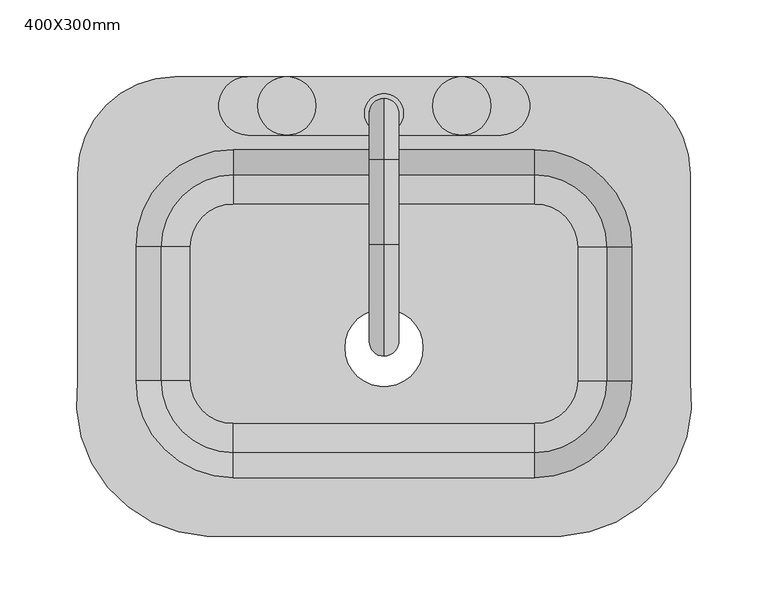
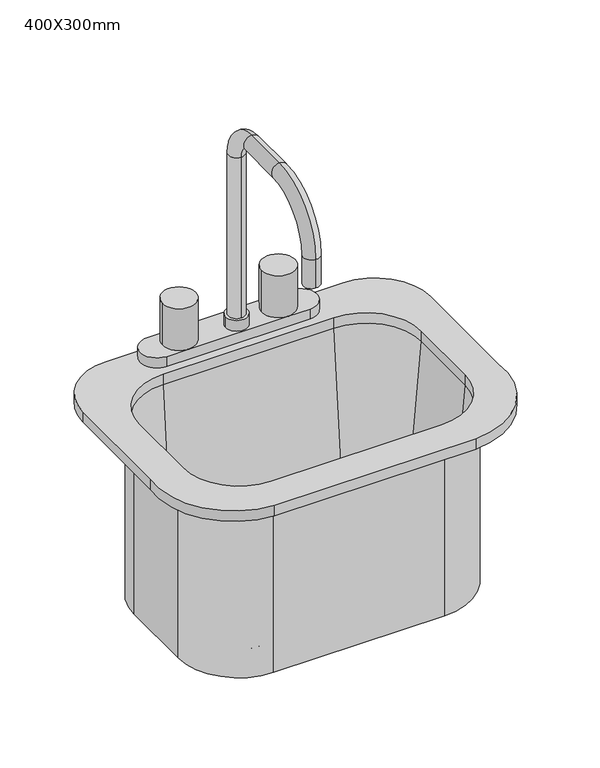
"""IFC4 building model written with IfcOpenShell, lengths in millimetres: flow terminal geometry, ARQ_VANITORIO : 400X300mm."""

import ifcopenshell
import ifcopenshell.guid

model = None  # the IFC model being written
_history = None  # IfcOwnerHistory: only IFC2X3 demands one
_inside = {}  # id of a spatial element -> (the spatial element, [elements in it])
_under = {}  # id of a project, library or spatial element -> (it, [spatial elements below it])
_declared = {}  # id of a project -> (the project, [libraries it declares])
_typed = {}  # id of a type object -> (the type object, [elements of that type])
_made_of = {}  # id of a material, layer set ... -> (it, [elements and type objects made of it])


def new_model(schema):
    """Start an empty IFC model of exactly this schema.

    Asked for "IFC4X3", IfcOpenShell would pick the latest addendum, in which some entities
    have other attributes; the version numbers below select the first issue.
    IFC2X3 requires an IfcOwnerHistory on every rooted entity: one is made here for all.
    """
    global model, _history
    if schema == "IFC4X3":
        model = ifcopenshell.file(schema_version=(4, 3, 0, 0))
    else:
        model = ifcopenshell.file(schema=schema)
    _inside.clear()
    _under.clear()
    _declared.clear()
    _typed.clear()
    _made_of.clear()
    _history = None
    if model.schema == "IFC2X3":
        org = make("IfcOrganization", Name="unknown")
        user = make(
            "IfcPersonAndOrganization",
            ThePerson=make("IfcPerson", FamilyName="unknown"),
            TheOrganization=org,
        )
        app = make(
            "IfcApplication",
            ApplicationDeveloper=org,
            Version="unknown",
            ApplicationFullName="unknown",
            ApplicationIdentifier="unknown",
        )
        _history = make(
            "IfcOwnerHistory",
            OwningUser=user,
            OwningApplication=app,
            ChangeAction="ADDED",
            CreationDate=0,
        )
    return model


def make(cls, **values):
    """One entity of the class cls with the attributes given. An attribute that is None is left unset."""
    return model.create_entity(
        cls, **{name: value for name, value in values.items() if value is not None}
    )


def rooted(cls, **values):
    """An entity with a GlobalId (a new one), such as an element, a storey or a relation."""
    return make(cls, GlobalId=ifcopenshell.guid.new(), OwnerHistory=_history, **values)


def si_unit(unit_type, name, prefix=None):
    """IfcSIUnit, for example si_unit("LENGTHUNIT", "METRE", prefix="MILLI")."""
    return make("IfcSIUnit", UnitType=unit_type, Prefix=prefix, Name=name)


def assignment(units):
    """IfcUnitAssignment: the units of a project."""
    return None if units is None else make("IfcUnitAssignment", Units=units)


def point(xyz):
    """IfcCartesianPoint."""
    return None if xyz is None else make("IfcCartesianPoint", Coordinates=xyz)


def direction(xyz):
    """IfcDirection."""
    return None if xyz is None else make("IfcDirection", DirectionRatios=xyz)


def frame(location, z_axis=None, x_axis=None):
    """IfcAxis2Placement3D, a coordinate frame: its origin and axes. An axis left out is left unset."""
    return make(
        "IfcAxis2Placement3D",
        Location=point(location),
        Axis=direction(z_axis),
        RefDirection=direction(x_axis),
    )


def origin():
    """The frame at (0, 0, 0) with its axes left unset."""
    return frame((0.0, 0.0, 0.0))


def place(relative_to, where):
    """IfcLocalPlacement: puts the frame where relative to a parent placement (None: the world)."""
    return make(
        "IfcLocalPlacement", PlacementRelTo=relative_to, RelativePlacement=where
    )


def context(
    kind, dimensions, precision=None, world=None, true_north=None, identifier=None
):
    """IfcGeometricRepresentationContext, for example the 3D "Model" context."""
    return make(
        "IfcGeometricRepresentationContext",
        ContextIdentifier=identifier,
        ContextType=kind,
        CoordinateSpaceDimension=dimensions,
        Precision=precision,
        WorldCoordinateSystem=world,
        TrueNorth=true_north,
    )


def project(units=None, contexts=None):
    """IfcProject with its units and contexts."""
    return rooted(
        "IfcProject",
        Name="project",
        RepresentationContexts=contexts,
        UnitsInContext=assignment(units),
    )


def spatial(cls, under=None, at=None, **own):
    """A site, building, storey or space (cls), placed at a placement, below another one or the project."""
    s = rooted(cls, ObjectPlacement=at, **own)
    if under is not None:
        _under.setdefault(under.id(), (under, []))[1].append(s)
    return s


def polyline(points):
    """IfcPolyline through the points."""
    return make("IfcPolyline", Points=[point(p) for p in points])


def circle_curve(where, radius):
    """IfcCircle in the frame where."""
    return make("IfcCircle", Position=where, Radius=radius)


def ellipse_curve(where, semi_axis1, semi_axis2):
    """IfcEllipse in the frame where."""
    return make(
        "IfcEllipse", Position=where, SemiAxis1=semi_axis1, SemiAxis2=semi_axis2
    )


def trimmed(basis, trim1, trim2, sense, master):
    """IfcTrimmedCurve: the piece of a basis curve between two trims."""
    return make(
        "IfcTrimmedCurve",
        BasisCurve=basis,
        Trim1=trim1,
        Trim2=trim2,
        SenseAgreement=sense,
        MasterRepresentation=master,
    )


def shape(context_of_items, identifier, shape_type, items):
    """IfcShapeRepresentation: the items that make up one representation, for example the "Body"."""
    return make(
        "IfcShapeRepresentation",
        ContextOfItems=context_of_items,
        RepresentationIdentifier=identifier,
        RepresentationType=shape_type,
        Items=items,
    )


def source(mapping_origin, context_of_items, identifier, shape_type, items):
    """IfcRepresentationMap: a shape defined once, which mapped items show again and again."""
    return make(
        "IfcRepresentationMap",
        MappingOrigin=mapping_origin,
        MappedRepresentation=shape(context_of_items, identifier, shape_type, items),
    )


def transform(
    local_origin,
    x_axis=None,
    y_axis=None,
    z_axis=None,
    scale=None,
    scale2=None,
    scale3=None,
    uniform=True,
):
    """IfcCartesianTransformationOperator3D, or its non-uniform kind. x_axis, y_axis, z_axis: its Axis1, 2, 3."""
    if uniform:
        return make(
            "IfcCartesianTransformationOperator3D",
            Axis1=direction(x_axis),
            Axis2=direction(y_axis),
            LocalOrigin=point(local_origin),
            Scale=scale,
            Axis3=direction(z_axis),
        )
    return make(
        "IfcCartesianTransformationOperator3DnonUniform",
        Axis1=direction(x_axis),
        Axis2=direction(y_axis),
        LocalOrigin=point(local_origin),
        Scale=scale,
        Axis3=direction(z_axis),
        Scale2=scale2,
        Scale3=scale3,
    )


def mapped(mapping_source, mapping_target):
    """IfcMappedItem: shows the shape of a source again, moved by a transform."""
    return make(
        "IfcMappedItem", MappingSource=mapping_source, MappingTarget=mapping_target
    )


def made_of(thing, what):
    """Note that an element or type object is made of a material, layer set ...; save() writes the relation."""
    if what is not None:
        _made_of.setdefault(what.id(), (what, []))[1].append(thing)
    return thing


def element(
    cls,
    number,
    at=None,
    inside=None,
    cuts=None,
    type_object=None,
    material=None,
    context=None,
    identifier="Body",
    shape_type=None,
    held_by="IfcProductDefinitionShape",
    body=None,
    shapes=None,
    **own,
):
    """One element of the class cls, such as IfcWall. Its Tag is "e" and its number.

    at: its placement. inside: the storey or other place that contains it. cuts: it is an
    opening in that element (IfcRelVoidsElement). A single representation is given by context,
    identifier, shape_type and body (its items); several are given by shapes. held_by: the class
    of the entity that holds the representations. save() writes the other relations.
    """
    e = rooted(cls, Tag="e%d" % number, ObjectPlacement=at, **own)
    if body is not None:
        shapes = [shape(context, identifier, shape_type, body)]
    if shapes is not None:
        e.Representation = make(held_by, Representations=shapes)
    if inside is not None:
        _inside.setdefault(inside.id(), (inside, []))[1].append(e)
    if cuts is not None:
        rooted(
            "IfcRelVoidsElement", RelatingBuildingElement=cuts, RelatedOpeningElement=e
        )
    if type_object is not None:
        _typed.setdefault(type_object.id(), (type_object, []))[1].append(e)
    return made_of(e, material)


def aggregate(whole, parts):
    """IfcRelAggregates: a whole, such as a stair, and the parts it consists of."""
    return rooted("IfcRelAggregates", RelatingObject=whole, RelatedObjects=parts)


def save(model, path):
    """Write the relations noted so far, then the file.

    IfcRelAggregates (storeys below a building ...), IfcRelContainedInSpatialStructure (elements
    in a storey), IfcRelDefinesByType, IfcRelAssociatesMaterial and IfcRelDeclares: one each for
    every whole, place, type object, material and project.
    """
    for whole, parts in _under.values():
        aggregate(whole, parts)
    for where, things in _inside.values():
        rooted(
            "IfcRelContainedInSpatialStructure",
            RelatedElements=things,
            RelatingStructure=where,
        )
    for kind, things in _typed.values():
        rooted("IfcRelDefinesByType", RelatedObjects=things, RelatingType=kind)
    for what, things in _made_of.values():
        rooted("IfcRelAssociatesMaterial", RelatedObjects=things, RelatingMaterial=what)
    for by, libraries in _declared.values():
        rooted("IfcRelDeclares", RelatingContext=by, RelatedDefinitions=libraries)
    model.write(path)


def plane_surface(at):
    """IfcPlane: the flat surface through the origin of the frame at, square to its z axis."""
    return make("IfcPlane", Position=at)


def cylinder_surface(at, radius):
    """IfcCylindricalSurface: all points at the distance radius from the z axis of the frame at."""
    return make("IfcCylindricalSurface", Position=at, Radius=radius)


def revolved_surface(curve, axis_point, axis_direction):
    """IfcSurfaceOfRevolution: the curve turned about the line through axis_point along axis_direction."""
    return make(
        "IfcSurfaceOfRevolution",
        SweptCurve=make("IfcArbitraryOpenProfileDef", ProfileType="CURVE", Curve=curve),
        AxisPosition=make("IfcAxis1Placement", Location=point(axis_point), Axis=direction(axis_direction)),
    )


def advanced_brep(points, edges, surfaces, faces):
    """IfcAdvancedBrep: a solid bounded by faces that lie on surfaces and meet in shared edges.

    An edge is (start, end): straight between two places in points (the first is 0);
    or (start, end, curve); or (start, end, curve, False) where it runs against its curve.
    A face is (place in surfaces, loops), or (place, loops, False) where it looks against
    its surface's normal. A loop lists edges by number (the first is 1), with a minus sign
    where the edge is run from its end to its start. The first loop is the outer one.
    """
    corners = [point(p) for p in points]
    vertices = [make("IfcVertexPoint", VertexGeometry=c) for c in corners]
    made = []
    for start, end, *more in edges:
        made.append(
            make(
                "IfcEdgeCurve",
                EdgeStart=vertices[start],
                EdgeEnd=vertices[end],
                EdgeGeometry=more[0] if more else make("IfcPolyline", Points=[corners[start], corners[end]]),
                SameSense=more[1] if len(more) > 1 else True,
            )
        )
    hull = []
    for where, loops, *sense in faces:
        bounds = []
        for j, loop in enumerate(loops):
            ring = [make("IfcOrientedEdge", EdgeElement=made[abs(k) - 1], Orientation=k > 0) for k in loop]
            bounds.append(
                make(
                    "IfcFaceOuterBound" if j == 0 else "IfcFaceBound",
                    Bound=make("IfcEdgeLoop", EdgeList=ring),
                    Orientation=True,
                )
            )
        hull.append(make("IfcAdvancedFace", Bounds=bounds, FaceSurface=surfaces[where], SameSense=sense[0] if sense else True))
    return make("IfcAdvancedBrep", Outer=make("IfcClosedShell", CfsFaces=hull))


def flow_terminal_400x300mm_7964804b(model_context):
    return source(origin(), model_context, "Body", "AdvancedBrep", [
        advanced_brep(
        [(183.9392406, 69.0204011, 684.1), (114.0892406, 138.8704011, 684.1), (114.0892406, 138.8704011, 900.0), (183.9392406, 69.0204011, 900.0), (183.9392406, -18.2545989, 684.1), (114.0892406, -88.1045989, 684.1), (-82.7107594, -88.1045989, 684.1), (-152.5607594, -18.2545989, 684.1), (-152.5607594, 69.0204011, 684.1), (-82.7107594, 138.8704011, 684.1), (-9.7107594, 3.175, 684.1), (41.0892406, 3.175, 684.1), (142.0776588, 69.0204011, 693.625), (114.0892406, 97.0088193, 693.625), (-82.7107594, 97.0088193, 693.625), (-110.6991776, 69.0204011, 693.625), (-110.6991776, -18.2545989, 693.625), (-82.7107594, -46.2430171, 693.625), (114.0892406, -46.2430171, 693.625), (142.0776588, -18.2545989, 693.625), (-9.7107594, 3.175, 693.625), (41.0892406, 3.175, 693.625), (161.0551678, 69.0204011, 711.0146831), (114.0892406, 115.9863283, 711.0146831), (177.5892406, 69.0204011, 900.0), (114.0892406, 132.5204011, 900.0), (183.9392406, -18.2545989, 900.0), (161.0551678, -18.2545989, 711.0146831), (177.5892406, -18.2545989, 900.0), (114.0892406, -88.1045989, 900.0), (114.0892406, -65.2205261, 711.0146831), (114.0892406, -81.7545989, 900.0), (-82.7107594, -88.1045989, 900.0), (-82.7107594, -65.2205261, 711.0146831), (-82.7107594, -81.7545989, 900.0), (-152.5607594, -18.2545989, 900.0), (-129.6766866, -18.2545989, 711.0146831), (-146.2107594, -18.2545989, 900.0), (-152.5607594, 69.0204011, 900.0), (-129.6766866, 69.0204011, 711.0146831), (-146.2107594, 69.0204011, 900.0), (-82.7107594, 138.8704011, 900.0), (-82.7107594, 115.9863283, 711.0146831), (-82.7107594, 132.5204011, 900.0), (-99.9606923, -119.8545989, 912.7), (131.3391735, -119.8545989, 912.7), (215.6892406, -18.2545989, 912.7), (215.6892406, 116.6454011, 912.7), (152.1892406, 180.1454011, 912.7), (-120.8107593, 180.1454011, 912.7), (-184.3107593, 116.6454011, 912.7), (-184.3107593, -18.2545982, 912.7), (114.0892406, 132.5204011, 912.7), (177.5892406, 69.0204011, 912.7), (177.5892406, -18.2545989, 912.7), (114.0892406, -81.7545989, 912.7), (-82.7107594, -81.7545989, 912.7), (-146.2107594, -18.2545989, 912.7), (-146.2107594, 69.0204011, 912.7), (-82.7107594, 132.5204011, 912.7), (-99.9606923, -119.8545989, 900.0), (-184.3107593, -18.2545982, 900.0), (-184.3107593, 116.6454011, 900.0), (-120.8107593, 180.1454011, 900.0), (152.1892406, 180.1454011, 900.0), (215.6892406, 116.6454011, 900.0), (215.6892406, -18.2545989, 900.0), (131.3391735, -119.8545989, 900.0)],
        [
            (0, 1, circle_curve(frame((114.0892406, 69.0204011, 684.1), z_axis=(0.0, 0.0, 1.0), x_axis=(0.0, 1.0, 0.0)), 69.85)),
            (1, 2),
            (2, 3, circle_curve(frame((114.0892406, 69.0204011, 900.0), z_axis=(0.0, 0.0, -1.0), x_axis=(0.0, 1.0, 0.0)), 69.85)),
            (3, 0),
            (0, 4),
            (4, 5, circle_curve(frame((114.0892406, -18.2545989, 684.1), z_axis=(0.0, 0.0, -1.0), x_axis=(1.0, 0.0, 0.0)), 69.85)),
            (5, 6),
            (6, 7, circle_curve(frame((-82.7107594, -18.2545989, 684.1), z_axis=(0.0, 0.0, -1.0), x_axis=(0.0, -1.0, 0.0)), 69.85)),
            (7, 8),
            (8, 9, circle_curve(frame((-82.7107594, 69.0204011, 684.1), z_axis=(0.0, 0.0, -1.0), x_axis=(-1.0, 0.0, 0.0)), 69.85)),
            (9, 1),
            (10, 11, circle_curve(frame((15.6892406, 3.175, 684.1), z_axis=(0.0, 0.0, 1.0), x_axis=(1.0, 0.0, 0.0)), 25.4)),
            (11, 10, circle_curve(frame((15.6892406, 3.175, 684.1), z_axis=(0.0, 0.0, 1.0), x_axis=(1.0, 0.0, 0.0)), 25.4)),
            (12, 13, circle_curve(frame((114.0892406, 69.0204011, 693.625), z_axis=(0.0, 0.0, 1.0), x_axis=(0.0, 1.0, 0.0)), 27.9884182)),
            (13, 14),
            (14, 15, circle_curve(frame((-82.7107594, 69.0204011, 693.625), z_axis=(0.0, 0.0, 1.0), x_axis=(-1.0, 0.0, 0.0)), 27.9884182)),
            (15, 16),
            (16, 17, circle_curve(frame((-82.7107594, -18.2545989, 693.625), z_axis=(0.0, 0.0, 1.0), x_axis=(0.0, -1.0, 0.0)), 27.9884182)),
            (17, 18),
            (18, 19, circle_curve(frame((114.0892406, -18.2545989, 693.625), z_axis=(0.0, 0.0, 1.0), x_axis=(1.0, 0.0, 0.0)), 27.9884182)),
            (19, 12),
            (20, 21, circle_curve(frame((15.6892406, 3.175, 693.625), z_axis=(0.0, 0.0, -1.0), x_axis=(1.0, 0.0, 0.0)), 25.4)),
            (21, 20, circle_curve(frame((15.6892406, 3.175, 693.625), z_axis=(0.0, 0.0, -1.0), x_axis=(1.0, 0.0, 0.0)), 25.4)),
            (12, 22, circle_curve(frame((142.0776588, 69.0204011, 712.675), z_axis=(0.0, -1.0, 0.0), x_axis=(1.0, 0.0, 0.0)), 19.05)),
            (22, 23, circle_curve(frame((114.0892406, 69.0204011, 711.0146831), z_axis=(0.0, 0.0, 1.0), x_axis=(0.0, 1.0, 0.0)), 46.9659272)),
            (23, 13, circle_curve(frame((114.0892406, 97.0088193, 712.675), z_axis=(-1.0, 0.0, 0.0), x_axis=(0.0, 1.0, 0.0)), 19.05)),
            (22, 24),
            (24, 25, circle_curve(frame((114.0892406, 69.0204011, 900.0), z_axis=(0.0, 0.0, 1.0), x_axis=(0.0, 1.0, 0.0)), 63.5)),
            (25, 23),
            (3, 26),
            (26, 4),
            (19, 27, circle_curve(frame((142.0776588, -18.2545989, 712.675), z_axis=(0.0, -1.0, 0.0), x_axis=(1.0, 0.0, 0.0)), 19.05)),
            (27, 22),
            (27, 28),
            (28, 24),
            (26, 29, circle_curve(frame((114.0892406, -18.2545989, 900.0), z_axis=(0.0, 0.0, -1.0), x_axis=(1.0, 0.0, 0.0)), 69.85)),
            (29, 5),
            (18, 30, circle_curve(frame((114.0892406, -46.2430171, 712.675), z_axis=(-1.0, 0.0, 0.0), x_axis=(0.0, -1.0, 0.0)), 19.05)),
            (30, 27, circle_curve(frame((114.0892406, -18.2545989, 711.0146831), z_axis=(0.0, 0.0, 1.0), x_axis=(1.0, 0.0, 0.0)), 46.9659272)),
            (30, 31),
            (31, 28, circle_curve(frame((114.0892406, -18.2545989, 900.0), z_axis=(0.0, 0.0, 1.0), x_axis=(1.0, 0.0, 0.0)), 63.5)),
            (29, 32),
            (32, 6),
            (17, 33, circle_curve(frame((-82.7107594, -46.2430171, 712.675), z_axis=(-1.0, 0.0, 0.0), x_axis=(0.0, -1.0, 0.0)), 19.05)),
            (33, 30),
            (33, 34),
            (34, 31),
            (32, 35, circle_curve(frame((-82.7107594, -18.2545989, 900.0), z_axis=(0.0, 0.0, -1.0), x_axis=(0.0, -1.0, 0.0)), 69.85)),
            (35, 7),
            (16, 36, circle_curve(frame((-110.6991776, -18.2545989, 712.675), z_axis=(0.0, 1.0, 0.0), x_axis=(-1.0, 0.0, 0.0)), 19.05)),
            (36, 33, circle_curve(frame((-82.7107594, -18.2545989, 711.0146831), z_axis=(0.0, 0.0, 1.0), x_axis=(0.0, -1.0, 0.0)), 46.9659272)),
            (36, 37),
            (37, 34, circle_curve(frame((-82.7107594, -18.2545989, 900.0), z_axis=(0.0, 0.0, 1.0), x_axis=(0.0, -1.0, 0.0)), 63.5)),
            (35, 38),
            (38, 8),
            (15, 39, circle_curve(frame((-110.6991776, 69.0204011, 712.675), z_axis=(0.0, 1.0, 0.0), x_axis=(-1.0, 0.0, 0.0)), 19.05)),
            (39, 36),
            (39, 40),
            (40, 37),
            (38, 41, circle_curve(frame((-82.7107594, 69.0204011, 900.0), z_axis=(0.0, 0.0, -1.0), x_axis=(-1.0, 0.0, 0.0)), 69.85)),
            (41, 9),
            (14, 42, circle_curve(frame((-82.7107594, 97.0088193, 712.675), z_axis=(1.0, 0.0, 0.0), x_axis=(0.0, 1.0, 0.0)), 19.05)),
            (42, 39, circle_curve(frame((-82.7107594, 69.0204011, 711.0146831), z_axis=(0.0, 0.0, 1.0), x_axis=(-1.0, 0.0, 0.0)), 46.9659272)),
            (42, 43),
            (43, 40, circle_curve(frame((-82.7107594, 69.0204011, 900.0), z_axis=(0.0, 0.0, 1.0), x_axis=(-1.0, 0.0, 0.0)), 63.5)),
            (41, 2),
            (23, 42),
            (25, 43),
            (20, 10),
            (11, 21),
            (44, 45),
            (45, 46, circle_curve(frame((127.5319557, -30.8793432, 912.7), z_axis=(0.0, 0.0, 1.0), x_axis=(1.0, 0.0, 0.0)), 89.0566732)),
            (46, 47),
            (47, 48, circle_curve(frame((152.1892406, 116.6454011, 912.7), z_axis=(0.0, 0.0, 1.0), x_axis=(1.0, 0.0, 0.0)), 63.5)),
            (48, 49),
            (49, 50, circle_curve(frame((-120.8107593, 116.6454011, 912.7), z_axis=(0.0, 0.0, 1.0), x_axis=(1.0, 0.0, 0.0)), 63.5)),
            (50, 51),
            (51, 44, circle_curve(frame((-96.1534746, -30.8793432, 912.7), z_axis=(0.0, 0.0, 1.0), x_axis=(1.0, 0.0, 0.0)), 89.0566732)),
            (52, 53, circle_curve(frame((114.0892406, 69.0204011, 912.7), z_axis=(0.0, 0.0, -1.0), x_axis=(1.0, 0.0, 0.0)), 63.5)),
            (53, 54),
            (54, 55, circle_curve(frame((114.0892406, -18.2545989, 912.7), z_axis=(0.0, 0.0, -1.0), x_axis=(1.0, 0.0, 0.0)), 63.5)),
            (55, 56),
            (56, 57, circle_curve(frame((-82.7107594, -18.2545989, 912.7), z_axis=(0.0, 0.0, -1.0), x_axis=(1.0, 0.0, 0.0)), 63.5)),
            (57, 58),
            (58, 59, circle_curve(frame((-82.7107594, 69.0204011, 912.7), z_axis=(0.0, 0.0, -1.0), x_axis=(1.0, 0.0, 0.0)), 63.5)),
            (59, 52),
            (60, 61, circle_curve(frame((-96.1534746, -30.8793432, 900.0), z_axis=(0.0, 0.0, -1.0), x_axis=(1.0, 0.0, 0.0)), 89.0566732)),
            (61, 62),
            (62, 63, circle_curve(frame((-120.8107593, 116.6454011, 900.0), z_axis=(0.0, 0.0, -1.0), x_axis=(1.0, 0.0, 0.0)), 63.5)),
            (63, 64),
            (64, 65, circle_curve(frame((152.1892406, 116.6454011, 900.0), z_axis=(0.0, 0.0, -1.0), x_axis=(1.0, 0.0, 0.0)), 63.5)),
            (65, 66),
            (66, 67, circle_curve(frame((127.5319557, -30.8793432, 900.0), z_axis=(0.0, 0.0, -1.0), x_axis=(1.0, 0.0, 0.0)), 89.0566732)),
            (67, 60),
            (44, 60),
            (67, 45),
            (66, 46),
            (65, 47),
            (64, 48),
            (63, 49),
            (62, 50),
            (61, 51),
            (52, 25),
            (24, 53),
            (28, 54),
            (31, 55),
            (34, 56),
            (37, 57),
            (40, 58),
            (43, 59),
        ],
        [
            cylinder_surface(frame((114.0892406, 69.0204011, 0.0), z_axis=(0.0, 0.0, -1.0), x_axis=(0.0, 1.0, 0.0)), 69.85),
            plane_surface(frame((114.0892406, 69.0204011, 684.1), z_axis=(0.0, 0.0, -1.0), x_axis=(0.0, 1.0, 0.0))),
            plane_surface(frame((114.0892406, 69.0204011, 693.625), z_axis=(0.0, 0.0, 1.0), x_axis=(0.0, 1.0, 0.0))),
            revolved_surface(trimmed(ellipse_curve(frame((114.0892406, 97.0088193, 712.675), z_axis=(1.0, 0.0, 0.0), x_axis=(0.0, 1.0, 0.0)), 19.05, 19.05), [point((114.0892406, 97.0088193, 693.625))], [point((114.0892406, 115.9863283, 711.0146831))], True, "CARTESIAN"), (114.0892406, 69.0204011, 0.0), (0.0, 0.0, -1.0)),
            revolved_surface(polyline([(114.0892406, 115.9863283, 711.0146831), (114.0892406, 132.5204011, 900.0)]), (114.0892406, 69.0204011, 0.0), (0.0, 0.0, -1.0)),
            plane_surface(frame((183.9392406, 69.0204011, 900.0), z_axis=(1.0, 0.0, 0.0), x_axis=(0.0, -1.0, 0.0))),
            revolved_surface(polyline([(161.1276588, -18.254598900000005, 712.675), (161.1276588, 69.0204011, 712.675)]), (142.0776588, 69.0204011, 712.675), (0.0, -1.0, 0.0)),
            plane_surface(frame((161.0551678, 69.0204011, 711.0146831), z_axis=(-0.9961946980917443, 0.0, 0.08715574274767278), x_axis=(0.0, -1.0, 0.0))),
            cylinder_surface(frame((114.0892406, -18.2545989, 0.0), z_axis=(0.0, 0.0, -1.0), x_axis=(1.0, 0.0, 0.0)), 69.85),
            revolved_surface(trimmed(ellipse_curve(frame((142.0776588, -18.2545989, 712.675), z_axis=(0.0, -1.0, 0.0), x_axis=(1.0, 0.0, 0.0)), 19.05, 19.05), [point((142.0776588, -18.2545989, 693.625))], [point((161.0551678, -18.2545989, 711.0146831))], True, "CARTESIAN"), (114.0892406, -18.2545989, 0.0), (0.0, 0.0, -1.0)),
            revolved_surface(polyline([(161.0551678, -18.2545989, 711.0146831), (177.5892406, -18.2545989, 900.0)]), (114.0892406, -18.2545989, 0.0), (0.0, 0.0, -1.0)),
            plane_surface(frame((114.0892406, -88.1045989, 900.0), z_axis=(0.0, -1.0, 0.0), x_axis=(-1.0, 0.0, 0.0))),
            revolved_surface(polyline([(-82.71075940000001, -65.2930171, 712.675), (114.0892406, -65.2930171, 712.675)]), (114.0892406, -46.2430171, 712.675), (-1.0, 0.0, 0.0)),
            plane_surface(frame((114.0892406, -65.2205261, 711.0146831), z_axis=(0.0, 0.9961946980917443, 0.08715574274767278), x_axis=(-1.0, 0.0, 0.0))),
            cylinder_surface(frame((-82.7107594, -18.2545989, 0.0), z_axis=(0.0, 0.0, -1.0), x_axis=(0.0, -1.0, 0.0)), 69.85),
            revolved_surface(trimmed(ellipse_curve(frame((-82.7107594, -46.2430171, 712.675), z_axis=(-1.0, 0.0, 0.0), x_axis=(0.0, -1.0, 0.0)), 19.05, 19.05), [point((-82.7107594, -46.2430171, 693.625))], [point((-82.7107594, -65.2205261, 711.0146831))], True, "CARTESIAN"), (-82.7107594, -18.2545989, 0.0), (0.0, 0.0, -1.0)),
            revolved_surface(polyline([(-82.7107594, -65.2205261, 711.0146831), (-82.7107594, -81.7545989, 900.0)]), (-82.7107594, -18.2545989, 0.0), (0.0, 0.0, -1.0)),
            plane_surface(frame((-152.5607594, -18.2545989, 900.0), z_axis=(-1.0, 0.0, 0.0), x_axis=(0.0, 1.0, 0.0))),
            revolved_surface(polyline([(-129.7491776, 69.0204011, 712.675), (-129.7491776, -18.2545989, 712.675)]), (-110.6991776, -18.2545989, 712.675), (0.0, 1.0, 0.0)),
            plane_surface(frame((-129.6766866, -18.2545989, 711.0146831), z_axis=(0.9961946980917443, 0.0, 0.08715574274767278), x_axis=(0.0, 1.0, 0.0))),
            cylinder_surface(frame((-82.7107594, 69.0204011, 0.0), z_axis=(0.0, 0.0, -1.0), x_axis=(-1.0, 0.0, 0.0)), 69.85),
            revolved_surface(trimmed(ellipse_curve(frame((-110.6991776, 69.0204011, 712.675), z_axis=(0.0, 1.0, 0.0), x_axis=(-1.0, 0.0, 0.0)), 19.05, 19.05), [point((-110.6991776, 69.0204011, 693.625))], [point((-129.6766866, 69.0204011, 711.0146831))], True, "CARTESIAN"), (-82.7107594, 69.0204011, 0.0), (0.0, 0.0, -1.0)),
            revolved_surface(polyline([(-129.6766866, 69.0204011, 711.0146831), (-146.2107594, 69.0204011, 900.0)]), (-82.7107594, 69.0204011, 0.0), (0.0, 0.0, -1.0)),
            plane_surface(frame((-82.7107594, 138.8704011, 900.0), z_axis=(0.0, 1.0, 0.0), x_axis=(1.0, 0.0, 0.0))),
            revolved_surface(polyline([(114.08924060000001, 116.0588193, 712.675), (-82.7107594, 116.0588193, 712.675)]), (-82.7107594, 97.0088193, 712.675), (1.0, 0.0, 0.0)),
            plane_surface(frame((-82.7107594, 115.9863283, 711.0146831), z_axis=(0.0, -0.9961946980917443, 0.08715574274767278), x_axis=(1.0, 0.0, 0.0))),
            revolved_surface(polyline([(41.0892406, 3.175, 684.1), (41.0892406, 3.175, 693.625)]), (15.6892406, 3.175, 0.0), (0.0, 0.0, -1.0)),
            plane_surface(frame((131.3391735, -119.8545989, 912.7), z_axis=(0.0, 0.0, 1.0), x_axis=(1.0, 0.0, 0.0))),
            plane_surface(frame((131.3391735, -119.8545989, 900.0), z_axis=(0.0, 0.0, -1.0), x_axis=(-1.0, 0.0, 0.0))),
            plane_surface(frame((-99.9606923, -119.8545989, 912.7), z_axis=(0.0, -1.0, 0.0), x_axis=(0.0, 0.0, -1.0))),
            cylinder_surface(frame((127.5319557, -30.8793432, 900.0), z_axis=(0.0, 0.0, 1.0), x_axis=(1.0, 0.0, 0.0)), 89.0566732),
            plane_surface(frame((215.6892406, -18.2545989, 912.7), z_axis=(1.0, 0.0, 0.0), x_axis=(0.0, 0.0, -1.0))),
            cylinder_surface(frame((152.1892406, 116.6454011, 900.0), z_axis=(0.0, 0.0, 1.0), x_axis=(1.0, 0.0, 0.0)), 63.5),
            plane_surface(frame((152.1892406, 180.1454011, 912.7), z_axis=(0.0, 1.0, 0.0), x_axis=(0.0, 0.0, -1.0))),
            cylinder_surface(frame((-120.8107593, 116.6454011, 900.0), z_axis=(0.0, 0.0, 1.0), x_axis=(1.0, 0.0, 0.0)), 63.5),
            plane_surface(frame((-184.3107593, 116.6454011, 912.7), z_axis=(-1.0, 0.0, 0.0), x_axis=(0.0, 0.0, -1.0))),
            cylinder_surface(frame((-96.1534746, -30.8793432, 900.0), z_axis=(0.0, 0.0, 1.0), x_axis=(1.0, 0.0, 0.0)), 89.0566732),
            revolved_surface(polyline([(177.58924059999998, 69.0204011, 900.0), (177.58924059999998, 69.0204011, 912.7)]), (114.0892406, 69.0204011, 0.0), (0.0, 0.0, -1.0)),
            plane_surface(frame((177.5892406, 69.0204011, 912.7), z_axis=(-1.0, 0.0, 0.0), x_axis=(0.0, 0.0, -1.0))),
            revolved_surface(polyline([(177.58924059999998, -18.2545989, 900.0), (177.58924059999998, -18.2545989, 912.7)]), (114.0892406, -18.2545989, 0.0), (0.0, 0.0, -1.0)),
            plane_surface(frame((114.0892406, -81.7545989, 912.7), z_axis=(0.0, 1.0, 0.0), x_axis=(0.0, 0.0, -1.0))),
            revolved_surface(polyline([(-19.2107594, -18.2545989, 900.0), (-19.2107594, -18.2545989, 912.7)]), (-82.7107594, -18.2545989, 0.0), (0.0, 0.0, -1.0)),
            plane_surface(frame((-146.2107594, -18.2545989, 912.7), z_axis=(1.0, 0.0, 0.0), x_axis=(0.0, 0.0, -1.0))),
            revolved_surface(polyline([(-19.2107594, 69.0204011, 900.0), (-19.2107594, 69.0204011, 912.7)]), (-82.7107594, 69.0204011, 0.0), (0.0, 0.0, -1.0)),
            plane_surface(frame((-82.7107594, 132.5204011, 912.7), z_axis=(0.0, -1.0, 0.0), x_axis=(0.0, 0.0, -1.0))),
        ],
        [
            (0, [[1, 2, 3, 4]]),
            (1, [[-1, 5, 6, 7, 8, 9, 10, 11], [12, 13]]),
            (2, [[14, 15, 16, 17, 18, 19, 20, 21], [22, 23]]),
            (3, [[-14, 24, 25, 26]]),
            (4, [[-25, 27, 28, 29]]),
            (5, [[-4, 30, 31, -5]]),
            (6, [[-24, -21, 32, 33]]),
            (7, [[-27, -33, 34, 35]]),
            (8, [[-31, 36, 37, -6]]),
            (9, [[-32, -20, 38, 39]]),
            (10, [[-34, -39, 40, 41]]),
            (11, [[-37, 42, 43, -7]]),
            (12, [[-38, -19, 44, 45]]),
            (13, [[-40, -45, 46, 47]]),
            (14, [[-43, 48, 49, -8]]),
            (15, [[-44, -18, 50, 51]]),
            (16, [[-46, -51, 52, 53]]),
            (17, [[-49, 54, 55, -9]]),
            (18, [[-50, -17, 56, 57]]),
            (19, [[-52, -57, 58, 59]]),
            (20, [[-55, 60, 61, -10]]),
            (21, [[-56, -16, 62, 63]]),
            (22, [[-58, -63, 64, 65]]),
            (23, [[-2, -11, -61, 66]]),
            (24, [[-26, 67, -62, -15]]),
            (25, [[-29, 68, -64, -67]]),
            (26, [[-22, 69, -13, 70]]),
            (26, [[-23, -70, -12, -69]]),
            (27, [[71, 72, 73, 74, 75, 76, 77, 78], [79, 80, 81, 82, 83, 84, 85, 86]]),
            (28, [[87, 88, 89, 90, 91, 92, 93, 94], [-3, -66, -60, -54, -48, -42, -36, -30]]),
            (29, [[-71, 95, -94, 96]]),
            (30, [[-72, -96, -93, 97]]),
            (31, [[-73, -97, -92, 98]]),
            (32, [[-74, -98, -91, 99]]),
            (33, [[-75, -99, -90, 100]]),
            (34, [[-76, -100, -89, 101]]),
            (35, [[-77, -101, -88, 102]]),
            (36, [[-78, -102, -87, -95]]),
            (37, [[-79, 103, -28, 104]]),
            (38, [[-80, -104, -35, 105]]),
            (39, [[-81, -105, -41, 106]]),
            (40, [[-82, -106, -47, 107]]),
            (41, [[-83, -107, -53, 108]]),
            (42, [[-84, -108, -59, 109]]),
            (43, [[-85, -109, -65, 110]]),
            (44, [[-86, -110, -68, -103]]),
        ],
    ),
        advanced_brep(
        [(91.8892406, 180.1454011, 912.7), (91.8892406, 142.0454011, 912.7), (66.4892406, 142.0454011, 912.7), (-47.8107594, 142.0454011, 912.7), (-73.2107594, 142.0454011, 912.7), (-73.2107594, 180.1454011, 912.7), (-47.8107594, 180.1454011, 912.7), (66.4892406, 180.1454011, 912.7), (15.6892406, 165.8579011, 1133.3625), (15.6892406, 146.8079011, 1133.3625), (15.6892406, 146.8079011, 938.1), (15.6892406, 165.8579011, 938.1), (15.6892406, 126.1704011, 1173.05), (15.6892406, 126.1704011, 1154.0), (15.6892406, 70.6079011, 1173.05), (15.6892406, 70.6079011, 1154.0), (15.6892406, -2.4170989, 1100.025), (15.6892406, 16.6329011, 1100.025), (15.6892406, -2.4170989, 1065.1), (15.6892406, 16.6329011, 1065.1), (2.9892406, 156.3329011, 938.1), (28.3892406, 156.3329011, 938.1), (2.9892406, 156.3329011, 925.2), (28.3892406, 156.3329011, 925.2), (-73.2107594, 180.1454011, 925.2), (-73.2107594, 142.0454011, 925.2), (-47.8107594, 142.0454011, 925.2), (-66.8607594, 161.0954011, 925.2), (-47.8107594, 180.1454011, 925.2), (91.8892406, 142.0454011, 925.2), (91.8892406, 180.1454011, 925.2), (66.4892406, 180.1454011, 925.2), (85.5392406, 161.0954011, 925.2), (66.4892406, 142.0454011, 925.2), (-28.7607594, 161.0954011, 925.2), (47.4392406, 161.0954011, 925.2), (-66.8607594, 161.0954011, 976.2), (-28.7607594, 161.0954011, 976.2), (47.4392406, 161.0954011, 976.2), (85.5392406, 161.0954011, 976.2)],
        [
            (0, 1, circle_curve(frame((91.8892406, 161.0954011, 912.7), z_axis=(0.0, 0.0, -1.0), x_axis=(1.0, 0.0, 0.0)), 19.05)),
            (1, 2),
            (2, 3),
            (3, 4),
            (4, 5, circle_curve(frame((-73.2107594, 161.0954011, 912.7), z_axis=(0.0, 0.0, -1.0), x_axis=(1.0, 0.0, 0.0)), 19.05)),
            (5, 6),
            (6, 7),
            (7, 0),
            (8, 9, circle_curve(frame((15.6892406, 156.3329011, 1133.3625), z_axis=(0.0, 0.0, -1.0), x_axis=(0.0, -1.0, 0.0)), 9.525)),
            (9, 10),
            (10, 11, circle_curve(frame((15.6892406, 156.3329011, 938.1), z_axis=(0.0, 0.0, 1.0), x_axis=(0.0, -1.0, 0.0)), 9.525)),
            (11, 8),
            (9, 8, circle_curve(frame((15.6892406, 156.3329011, 1133.3625), z_axis=(0.0, 0.0, -1.0), x_axis=(0.0, -1.0, 0.0)), 9.525)),
            (11, 10, circle_curve(frame((15.6892406, 156.3329011, 938.1), z_axis=(0.0, 0.0, 1.0), x_axis=(0.0, -1.0, 0.0)), 9.525)),
            (8, 12, circle_curve(frame((15.6892406, 126.1704011, 1133.3625), z_axis=(1.0, 0.0, 0.0), x_axis=(0.0, 1.0, 0.0)), 39.6875)),
            (12, 13, circle_curve(frame((15.6892406, 126.1704011, 1163.525), z_axis=(0.0, 1.0, 0.0), x_axis=(0.0, 0.0, -1.0)), 9.525)),
            (13, 9, circle_curve(frame((15.6892406, 126.1704011, 1133.3625), z_axis=(-1.0, 0.0, 0.0), x_axis=(0.0, 1.0, 0.0)), 20.6375)),
            (13, 12, circle_curve(frame((15.6892406, 126.1704011, 1163.525), z_axis=(0.0, 1.0, 0.0), x_axis=(0.0, 0.0, -1.0)), 9.525)),
            (12, 14),
            (14, 15, circle_curve(frame((15.6892406, 70.6079011, 1163.525), z_axis=(0.0, 1.0, 0.0), x_axis=(0.0, 0.0, -1.0)), 9.525)),
            (15, 13),
            (15, 14, circle_curve(frame((15.6892406, 70.6079011, 1163.525), z_axis=(0.0, 1.0, 0.0), x_axis=(0.0, 0.0, -1.0)), 9.525)),
            (14, 16, circle_curve(frame((15.6892406, 70.6079011, 1100.025), z_axis=(1.0, 0.0, 0.0), x_axis=(0.0, 0.0, 1.0)), 73.025)),
            (16, 17, circle_curve(frame((15.6892406, 7.1079011, 1100.025), z_axis=(0.0, 0.0, 1.0), x_axis=(0.0, 1.0, 0.0)), 9.525)),
            (17, 15, circle_curve(frame((15.6892406, 70.6079011, 1100.025), z_axis=(-1.0, 0.0, 0.0), x_axis=(0.0, 0.0, 1.0)), 53.975)),
            (17, 16, circle_curve(frame((15.6892406, 7.1079011, 1100.025), z_axis=(0.0, 0.0, 1.0), x_axis=(0.0, 1.0, 0.0)), 9.525)),
            (18, 19, circle_curve(frame((15.6892406, 7.1079011, 1065.1), z_axis=(0.0, 0.0, -1.0), x_axis=(0.0, 1.0, 0.0)), 9.525)),
            (19, 18, circle_curve(frame((15.6892406, 7.1079011, 1065.1), z_axis=(0.0, 0.0, -1.0), x_axis=(0.0, 1.0, 0.0)), 9.525)),
            (16, 18),
            (19, 17),
            (20, 21, circle_curve(frame((15.6892406, 156.3329011, 938.1), z_axis=(0.0, 0.0, 1.0), x_axis=(1.0, 0.0, 0.0)), 12.7)),
            (21, 20, circle_curve(frame((15.6892406, 156.3329011, 938.1), z_axis=(0.0, 0.0, 1.0), x_axis=(1.0, 0.0, 0.0)), 12.7)),
            (20, 22),
            (22, 23, circle_curve(frame((15.6892406, 156.3329011, 925.2), z_axis=(0.0, 0.0, 1.0), x_axis=(1.0, 0.0, 0.0)), 12.7)),
            (23, 21),
            (23, 22, circle_curve(frame((15.6892406, 156.3329011, 925.2), z_axis=(0.0, 0.0, 1.0), x_axis=(1.0, 0.0, 0.0)), 12.7)),
            (24, 25, circle_curve(frame((-73.2107594, 161.0954011, 925.2), z_axis=(0.0, 0.0, 1.0), x_axis=(1.0, 0.0, 0.0)), 19.05)),
            (25, 26),
            (26, 27, circle_curve(frame((-47.8107594, 161.0954011, 925.2), z_axis=(0.0, 0.0, -1.0), x_axis=(1.0, 0.0, 0.0)), 19.05)),
            (27, 28, circle_curve(frame((-47.8107594, 161.0954011, 925.2), z_axis=(0.0, 0.0, -1.0), x_axis=(1.0, 0.0, 0.0)), 19.05)),
            (28, 24),
            (29, 30, circle_curve(frame((91.8892406, 161.0954011, 925.2), z_axis=(0.0, 0.0, 1.0), x_axis=(1.0, 0.0, 0.0)), 19.05)),
            (30, 31),
            (31, 32, circle_curve(frame((66.4892406, 161.0954011, 925.2), z_axis=(0.0, 0.0, -1.0), x_axis=(1.0, 0.0, 0.0)), 19.05)),
            (32, 33, circle_curve(frame((66.4892406, 161.0954011, 925.2), z_axis=(0.0, 0.0, -1.0), x_axis=(1.0, 0.0, 0.0)), 19.05)),
            (33, 29),
            (31, 28),
            (28, 34, circle_curve(frame((-47.8107594, 161.0954011, 925.2), z_axis=(0.0, 0.0, -1.0), x_axis=(1.0, 0.0, 0.0)), 19.05)),
            (34, 26, circle_curve(frame((-47.8107594, 161.0954011, 925.2), z_axis=(0.0, 0.0, -1.0), x_axis=(1.0, 0.0, 0.0)), 19.05)),
            (26, 33),
            (33, 35, circle_curve(frame((66.4892406, 161.0954011, 925.2), z_axis=(0.0, 0.0, -1.0), x_axis=(1.0, 0.0, 0.0)), 19.05)),
            (35, 31, circle_curve(frame((66.4892406, 161.0954011, 925.2), z_axis=(0.0, 0.0, -1.0), x_axis=(1.0, 0.0, 0.0)), 19.05)),
            (30, 0),
            (5, 24),
            (4, 25),
            (1, 29),
            (36, 37, circle_curve(frame((-47.8107594, 161.0954011, 976.2), z_axis=(0.0, 0.0, 1.0), x_axis=(1.0, 0.0, 0.0)), 19.05)),
            (37, 36, circle_curve(frame((-47.8107594, 161.0954011, 976.2), z_axis=(0.0, 0.0, 1.0), x_axis=(1.0, 0.0, 0.0)), 19.05)),
            (38, 39, circle_curve(frame((66.4892406, 161.0954011, 976.2), z_axis=(0.0, 0.0, 1.0), x_axis=(1.0, 0.0, 0.0)), 19.05)),
            (39, 38, circle_curve(frame((66.4892406, 161.0954011, 976.2), z_axis=(0.0, 0.0, 1.0), x_axis=(1.0, 0.0, 0.0)), 19.05)),
            (36, 27),
            (34, 37),
            (38, 35),
            (32, 39),
        ],
        [
            plane_surface(frame((15.6892406, 146.8079011, 912.7), z_axis=(0.0, 0.0, -1.0), x_axis=(1.0, 0.0, 0.0))),
            cylinder_surface(frame((15.6892406, 156.3329011, 912.7), z_axis=(0.0, 0.0, -1.0), x_axis=(0.0, -1.0, 0.0)), 9.525),
            revolved_surface(trimmed(ellipse_curve(frame((15.6892406, 156.3329011, 1133.3625), z_axis=(0.0, 0.0, -1.0), x_axis=(0.0, -1.0, 0.0)), 9.525, 9.525), [point((15.6892406, 165.8579011, 1133.3625))], [point((15.6892406, 146.8079011, 1133.3625))], True, "CARTESIAN"), (15.6892406, 126.1704011, 1133.3625), (1.0, 0.0, 0.0)),
            revolved_surface(trimmed(ellipse_curve(frame((15.6892406, 156.3329011, 1133.3625), z_axis=(0.0, 0.0, -1.0), x_axis=(0.0, -1.0, 0.0)), 9.525, 9.525), [point((15.6892406, 146.8079011, 1133.3625))], [point((15.6892406, 165.8579011, 1133.3625))], True, "CARTESIAN"), (15.6892406, 126.1704011, 1133.3625), (1.0, 0.0, 0.0)),
            cylinder_surface(frame((15.6892406, 126.1704011, 1163.525), z_axis=(0.0, 1.0, 0.0), x_axis=(0.0, 0.0, -1.0)), 9.525),
            revolved_surface(trimmed(ellipse_curve(frame((15.6892406, 70.6079011, 1163.525), z_axis=(0.0, 1.0, 0.0), x_axis=(0.0, 0.0, -1.0)), 9.525, 9.525), [point((15.6892406, 70.6079011, 1173.05))], [point((15.6892406, 70.6079011, 1154.0))], True, "CARTESIAN"), (15.6892406, 70.6079011, 1100.025), (1.0, 0.0, 0.0)),
            revolved_surface(trimmed(ellipse_curve(frame((15.6892406, 70.6079011, 1163.525), z_axis=(0.0, 1.0, 0.0), x_axis=(0.0, 0.0, -1.0)), 9.525, 9.525), [point((15.6892406, 70.6079011, 1154.0))], [point((15.6892406, 70.6079011, 1173.05))], True, "CARTESIAN"), (15.6892406, 70.6079011, 1100.025), (1.0, 0.0, 0.0)),
            plane_surface(frame((15.6892406, -2.4170989, 1065.1), z_axis=(0.0, 0.0, -1.0), x_axis=(-1.0, 0.0, 0.0))),
            cylinder_surface(frame((15.6892406, 7.1079011, 1100.025), z_axis=(0.0, 0.0, 1.0), x_axis=(0.0, 1.0, 0.0)), 9.525),
            plane_surface(frame((28.3892406, 156.3329011, 938.1), z_axis=(0.0, 0.0, 1.0), x_axis=(0.0, 1.0, 0.0))),
            cylinder_surface(frame((15.6892406, 156.3329011, 912.7), z_axis=(0.0, 0.0, 1.0), x_axis=(1.0, 0.0, 0.0)), 12.7),
            plane_surface(frame((-73.2107594, 180.1454011, 925.2), z_axis=(0.0, 0.0, 1.0), x_axis=(-1.0, 0.0, 0.0))),
            plane_surface(frame((91.8892406, 180.1454011, 925.2), z_axis=(0.0, 1.0, 0.0), x_axis=(0.0, 0.0, -1.0))),
            cylinder_surface(frame((-73.2107594, 161.0954011, 912.7), z_axis=(0.0, 0.0, 1.0), x_axis=(1.0, 0.0, 0.0)), 19.05),
            plane_surface(frame((-73.2107594, 142.0454011, 925.2), z_axis=(0.0, -1.0, 0.0), x_axis=(0.0, 0.0, -1.0))),
            cylinder_surface(frame((91.8892406, 161.0954011, 912.7), z_axis=(0.0, 0.0, 1.0), x_axis=(1.0, 0.0, 0.0)), 19.05),
            plane_surface(frame((-28.7607594, 161.0954011, 976.2), z_axis=(0.0, 0.0, 1.0), x_axis=(0.0, 1.0, 0.0))),
            cylinder_surface(frame((-47.8107594, 161.0954011, 912.7), z_axis=(0.0, 0.0, 1.0), x_axis=(1.0, 0.0, 0.0)), 19.05),
            cylinder_surface(frame((66.4892406, 161.0954011, 0.0), z_axis=(0.0, 0.0, 1.0), x_axis=(1.0, 0.0, 0.0)), 19.05),
        ],
        [
            (0, [[1, 2, 3, 4, 5, 6, 7, 8]]),
            (1, [[9, 10, 11, 12]]),
            (1, [[13, -12, 14, -10]]),
            (2, [[-9, 15, 16, 17]]),
            (3, [[-13, -17, 18, -15]]),
            (4, [[-16, 19, 20, 21]]),
            (4, [[-18, -21, 22, -19]]),
            (5, [[-20, 23, 24, 25]]),
            (6, [[-22, -25, 26, -23]]),
            (7, [[27, 28]]),
            (8, [[-24, 29, -28, 30]]),
            (8, [[-26, -30, -27, -29]]),
            (9, [[31, 32], [-11, -14]]),
            (10, [[-31, 33, 34, 35]]),
            (10, [[-32, -35, 36, -33]]),
            (11, [[37, 38, 39, 40, 41]]),
            (11, [[42, 43, 44, 45, 46]]),
            (11, [[47, 48, 49, 50, 51, 52], [-34, -36]]),
            (12, [[53, -8, -7, -6, 54, -41, -47, -43]]),
            (13, [[-37, -54, -5, 55]]),
            (14, [[-55, -4, -3, -2, 56, -46, -50, -38]]),
            (15, [[-42, -56, -1, -53]]),
            (16, [[57, 58]]),
            (16, [[59, 60]]),
            (17, [[-57, 61, -39, -49, 62]]),
            (17, [[-58, -62, -48, -40, -61]]),
            (18, [[-59, 63, -51, -45, 64]]),
            (18, [[-60, -64, -44, -52, -63]]),
        ],
    ),
    ])


if __name__ == "__main__":
    model = new_model("IFC4")
    model_context = context("Model", 3, world=origin())
    ifc_project = project(units=[si_unit("LENGTHUNIT", "METRE", prefix="MILLI")], contexts=[model_context])
    site = spatial("IfcSite", under=ifc_project)
    building = spatial("IfcBuilding", under=site)
    placement = place(None, origin())
    flow_terminal_400x300mm_shape = flow_terminal_400x300mm_7964804b(model_context)
    element("IfcFlowTerminal", 1, ObjectType="ARQ_VANITORIO : 400X300mm", at=placement, inside=building, context=model_context, shape_type="MappedRepresentation", body=[
        mapped(flow_terminal_400x300mm_shape, transform((0.0, 0.0, 0.0), x_axis=(1.0, 0.0, 0.0), y_axis=(0.0, 1.0, 0.0), z_axis=(0.0, 0.0, 1.0))),
    ])
    save(model, "model.ifc")
